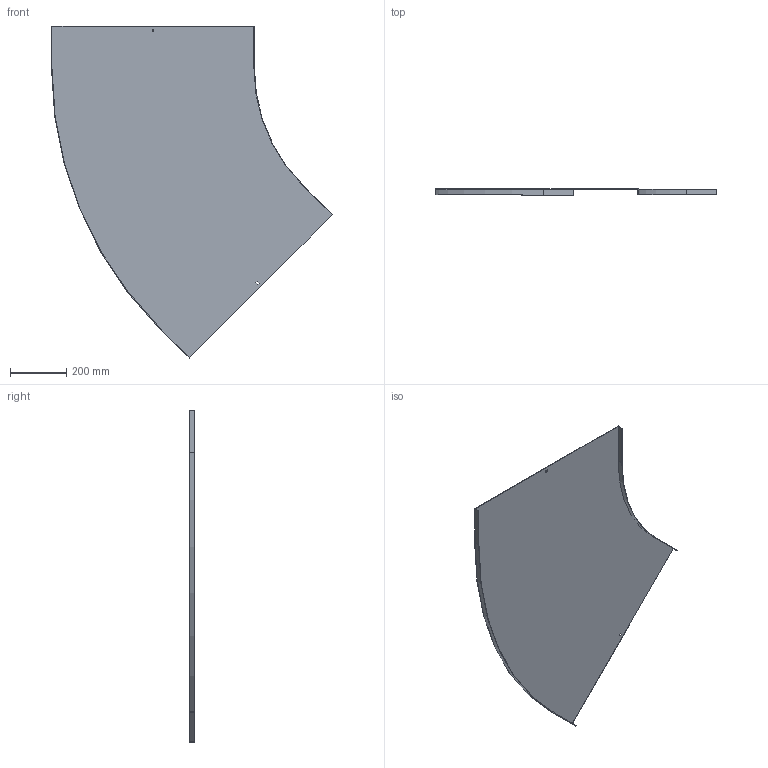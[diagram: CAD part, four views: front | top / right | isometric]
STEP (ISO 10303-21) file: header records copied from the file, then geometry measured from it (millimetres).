
FILE_DESCRIPTION (( 'STEP AP214' ), '1' );
FILE_NAME ('11N6P700.step', '2025-02-21T13:35:44', ( '' ), ( '' ), 'SwSTEP 2.0', 'SolidWorks 2023', '' );
FILE_SCHEMA (( 'AUTOMOTIVE_DESIGN' ));
Length unit declared in the file: millimetre
Products named in the file (1): 11N6P700
Bounding box: 1001.43 x 20 x 1183.44 mm (x, y, z)
Volume: 1192410.7 mm3; surface area: 1595392.3 mm2
Topology: 1 solids, 1 shells, 26 faces, 72 edges, 48 vertices
Faces by surface type: plane 22, cylinder 4
Entity records: 855 total; most frequent: CARTESIAN_POINT 147, ORIENTED_EDGE 144, DIRECTION 134, EDGE_CURVE 72, VECTOR 64, LINE 64, VERTEX_POINT 48, AXIS2_PLACEMENT_3D 35
